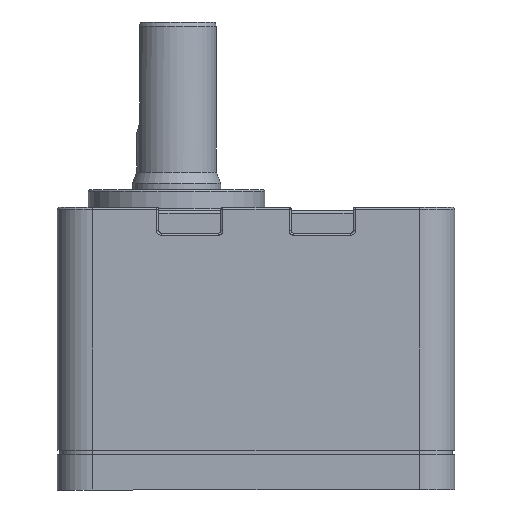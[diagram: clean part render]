
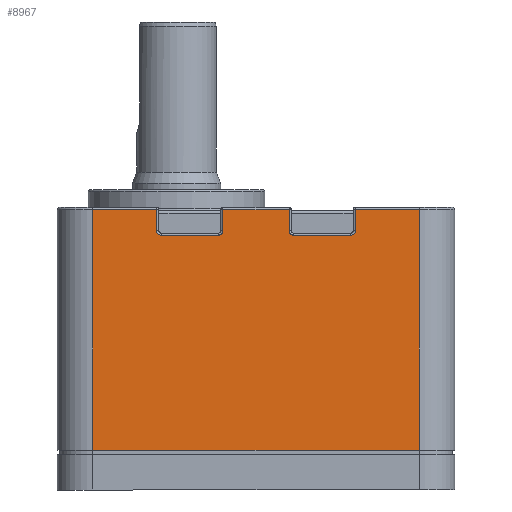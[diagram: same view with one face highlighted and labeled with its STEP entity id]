
A CAD part, left-side view. The second image highlights one B-rep face of the part: STEP entity #8967.
In plain terms, the highlighted planar face has unit normal (-1, 0, 0).
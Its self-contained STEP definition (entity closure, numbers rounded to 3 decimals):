
#8623=CARTESIAN_POINT('',(-90.,8.,89.594));
#8624=VERTEX_POINT('',#8623);
#8633=CARTESIAN_POINT('',(-90.,22.5,89.594));
#8634=VERTEX_POINT('',#8633);
#8642=CARTESIAN_POINT('',(-90.,22.5,89.594));
#8643=DIRECTION('',(0.0,-1.0,0.0));
#8644=VECTOR('',#8643,14.5);
#8645=LINE('',#8642,#8644);
#8646=EDGE_CURVE('',#8634,#8624,#8645,.T.);
#8837=CARTESIAN_POINT('',(-90.,90.,90.094));
#8838=DIRECTION('',(-1.0,0.0,0.0));
#8839=DIRECTION('',(0.0,0.0,-1.0));
#8840=AXIS2_PLACEMENT_3D('',#8837,#8838,#8839);
#8841=PLANE('',#8840);
#8842=ORIENTED_EDGE('',*,*,#8646,.F.);
#8843=CARTESIAN_POINT('',(-90.,22.5,84.794));
#8844=VERTEX_POINT('',#8843);
#8845=CARTESIAN_POINT('',(-90.,22.5,84.794));
#8846=DIRECTION('',(0.0,0.0,1.0));
#8847=VECTOR('',#8846,4.8);
#8848=LINE('',#8845,#8847);
#8849=EDGE_CURVE('',#8844,#8634,#8848,.T.);
#8850=ORIENTED_EDGE('',*,*,#8849,.F.);
#8851=CARTESIAN_POINT('',(-90.,23.5,83.794));
#8852=VERTEX_POINT('',#8851);
#8853=CARTESIAN_POINT('',(-90.,23.5,84.794));
#8854=DIRECTION('',(-1.,0.,0.));
#8855=DIRECTION('',(0.,-0.707,-0.707));
#8856=AXIS2_PLACEMENT_3D('',#8853,#8854,#8855);
#8857=CIRCLE('',#8856,1.0);
#8858=EDGE_CURVE('',#8852,#8844,#8857,.T.);
#8859=ORIENTED_EDGE('',*,*,#8858,.F.);
#8860=CARTESIAN_POINT('',(-90.,36.5,83.794));
#8861=VERTEX_POINT('',#8860);
#8862=CARTESIAN_POINT('',(-90.,36.5,83.794));
#8863=DIRECTION('',(0.0,-1.0,0.0));
#8864=VECTOR('',#8863,13.);
#8865=LINE('',#8862,#8864);
#8866=EDGE_CURVE('',#8861,#8852,#8865,.T.);
#8867=ORIENTED_EDGE('',*,*,#8866,.F.);
#8868=CARTESIAN_POINT('',(-90.,37.5,84.794));
#8869=VERTEX_POINT('',#8868);
#8870=CARTESIAN_POINT('',(-90.,36.5,84.794));
#8871=DIRECTION('',(-1.,0.,0.));
#8872=DIRECTION('',(0.,0.707,-0.707));
#8873=AXIS2_PLACEMENT_3D('',#8870,#8871,#8872);
#8874=CIRCLE('',#8873,1.0);
#8875=EDGE_CURVE('',#8869,#8861,#8874,.T.);
#8876=ORIENTED_EDGE('',*,*,#8875,.F.);
#8877=CARTESIAN_POINT('',(-90.,37.5,89.594));
#8878=VERTEX_POINT('',#8877);
#8879=CARTESIAN_POINT('',(-90.,37.5,89.594));
#8880=DIRECTION('',(0.0,0.0,-1.0));
#8881=VECTOR('',#8880,4.8);
#8882=LINE('',#8879,#8881);
#8883=EDGE_CURVE('',#8878,#8869,#8882,.T.);
#8884=ORIENTED_EDGE('',*,*,#8883,.F.);
#8885=CARTESIAN_POINT('',(-90.,52.5,89.594));
#8886=VERTEX_POINT('',#8885);
#8887=CARTESIAN_POINT('',(-90.,52.5,89.594));
#8888=DIRECTION('',(0.0,-1.0,0.0));
#8889=VECTOR('',#8888,15.0);
#8890=LINE('',#8887,#8889);
#8891=EDGE_CURVE('',#8886,#8878,#8890,.T.);
#8892=ORIENTED_EDGE('',*,*,#8891,.F.);
#8893=CARTESIAN_POINT('',(-90.,52.5,84.794));
#8894=VERTEX_POINT('',#8893);
#8895=CARTESIAN_POINT('',(-90.,52.5,84.794));
#8896=DIRECTION('',(0.0,0.0,1.0));
#8897=VECTOR('',#8896,4.8);
#8898=LINE('',#8895,#8897);
#8899=EDGE_CURVE('',#8894,#8886,#8898,.T.);
#8900=ORIENTED_EDGE('',*,*,#8899,.F.);
#8901=CARTESIAN_POINT('',(-90.,53.5,83.794));
#8902=VERTEX_POINT('',#8901);
#8903=CARTESIAN_POINT('',(-90.,53.5,84.794));
#8904=DIRECTION('',(-1.,0.,0.));
#8905=DIRECTION('',(0.,-0.707,-0.707));
#8906=AXIS2_PLACEMENT_3D('',#8903,#8904,#8905);
#8907=CIRCLE('',#8906,1.0);
#8908=EDGE_CURVE('',#8902,#8894,#8907,.T.);
#8909=ORIENTED_EDGE('',*,*,#8908,.F.);
#8910=CARTESIAN_POINT('',(-90.,66.5,83.794));
#8911=VERTEX_POINT('',#8910);
#8912=CARTESIAN_POINT('',(-90.,66.5,83.794));
#8913=DIRECTION('',(0.0,-1.0,0.0));
#8914=VECTOR('',#8913,13.0);
#8915=LINE('',#8912,#8914);
#8916=EDGE_CURVE('',#8911,#8902,#8915,.T.);
#8917=ORIENTED_EDGE('',*,*,#8916,.F.);
#8918=CARTESIAN_POINT('',(-90.,67.5,84.794));
#8919=VERTEX_POINT('',#8918);
#8920=CARTESIAN_POINT('',(-90.,66.5,84.794));
#8921=DIRECTION('',(-1.,0.,0.));
#8922=DIRECTION('',(0.,0.707,-0.707));
#8923=AXIS2_PLACEMENT_3D('',#8920,#8921,#8922);
#8924=CIRCLE('',#8923,1.0);
#8925=EDGE_CURVE('',#8919,#8911,#8924,.T.);
#8926=ORIENTED_EDGE('',*,*,#8925,.F.);
#8927=CARTESIAN_POINT('',(-90.,67.5,89.594));
#8928=VERTEX_POINT('',#8927);
#8929=CARTESIAN_POINT('',(-90.,67.5,89.594));
#8930=DIRECTION('',(0.0,0.0,-1.0));
#8931=VECTOR('',#8930,4.8);
#8932=LINE('',#8929,#8931);
#8933=EDGE_CURVE('',#8928,#8919,#8932,.T.);
#8934=ORIENTED_EDGE('',*,*,#8933,.F.);
#8935=CARTESIAN_POINT('',(-90.,82.,89.594));
#8936=VERTEX_POINT('',#8935);
#8937=CARTESIAN_POINT('',(-90.,82.,89.594));
#8938=DIRECTION('',(0.0,-1.0,0.0));
#8939=VECTOR('',#8938,14.5);
#8940=LINE('',#8937,#8939);
#8941=EDGE_CURVE('',#8936,#8928,#8940,.T.);
#8942=ORIENTED_EDGE('',*,*,#8941,.F.);
#8943=CARTESIAN_POINT('',(-90.,82.0,35.094));
#8944=VERTEX_POINT('',#8943);
#8945=CARTESIAN_POINT('',(-90.,82.,35.094));
#8946=DIRECTION('',(0.0,0.0,1.0));
#8947=VECTOR('',#8946,54.5);
#8948=LINE('',#8945,#8947);
#8949=EDGE_CURVE('',#8944,#8936,#8948,.T.);
#8950=ORIENTED_EDGE('',*,*,#8949,.F.);
#8951=CARTESIAN_POINT('',(-90.0,8.,35.094));
#8952=VERTEX_POINT('',#8951);
#8953=CARTESIAN_POINT('',(-90.,82.,35.094));
#8954=DIRECTION('',(0.0,-1.0,0.0));
#8955=VECTOR('',#8954,74.);
#8956=LINE('',#8953,#8955);
#8957=EDGE_CURVE('',#8944,#8952,#8956,.T.);
#8958=ORIENTED_EDGE('',*,*,#8957,.T.);
#8959=CARTESIAN_POINT('',(-90.,8.,89.594));
#8960=DIRECTION('',(0.0,0.0,-1.0));
#8961=VECTOR('',#8960,54.5);
#8962=LINE('',#8959,#8961);
#8963=EDGE_CURVE('',#8624,#8952,#8962,.T.);
#8964=ORIENTED_EDGE('',*,*,#8963,.F.);
#8965=EDGE_LOOP('',(#8842,#8850,#8859,#8867,#8876,#8884,#8892,#8900,#8909,#8917,#8926,#8934,#8942,#8950,#8958,#8964));
#8966=FACE_OUTER_BOUND('',#8965,.T.);
#8967=ADVANCED_FACE('',(#8966),#8841,.T.);
